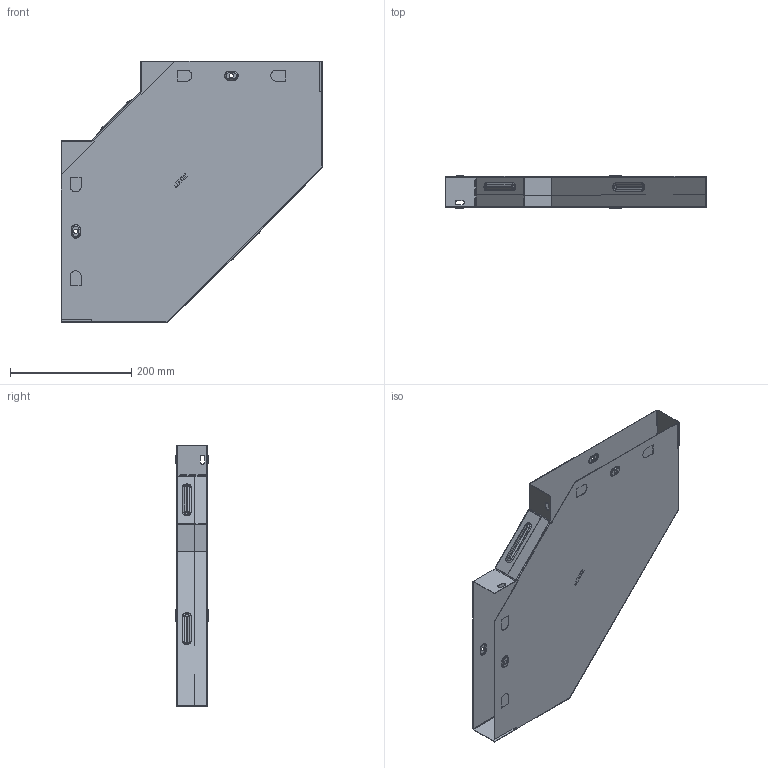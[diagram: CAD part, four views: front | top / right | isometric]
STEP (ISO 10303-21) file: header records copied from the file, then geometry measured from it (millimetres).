
FILE_DESCRIPTION (( 'STEP AP214' ), '1' );
FILE_NAME ('g9050300_捘.STEP', '2019-06-10T09:53:48', ( '砐錪賧瘔蠈錪 Windows' ), ( '' ), 'SwSTEP 2.0', 'SolidWorks 2018', '' );
FILE_SCHEMA (( 'AUTOMOTIVE_DESIGN' ));
Length unit declared in the file: millimetre
Products named in the file (1): g9050300_捘
Bounding box: 430.8 x 53.8 x 430.8 mm (x, y, z)
Volume: 268936.1 mm3; surface area: 676260.5 mm2
Topology: 2 solids, 2 shells, 522 faces, 1410 edges, 908 vertices
Faces by surface type: plane 300, cylinder 132, torus 64, bspline 26
Entity records: 17659 total; most frequent: CARTESIAN_POINT 4317, ORIENTED_EDGE 2820, DIRECTION 2684, EDGE_CURVE 1410, VECTOR 1002, LINE 1002, VERTEX_POINT 908, AXIS2_PLACEMENT_3D 841
